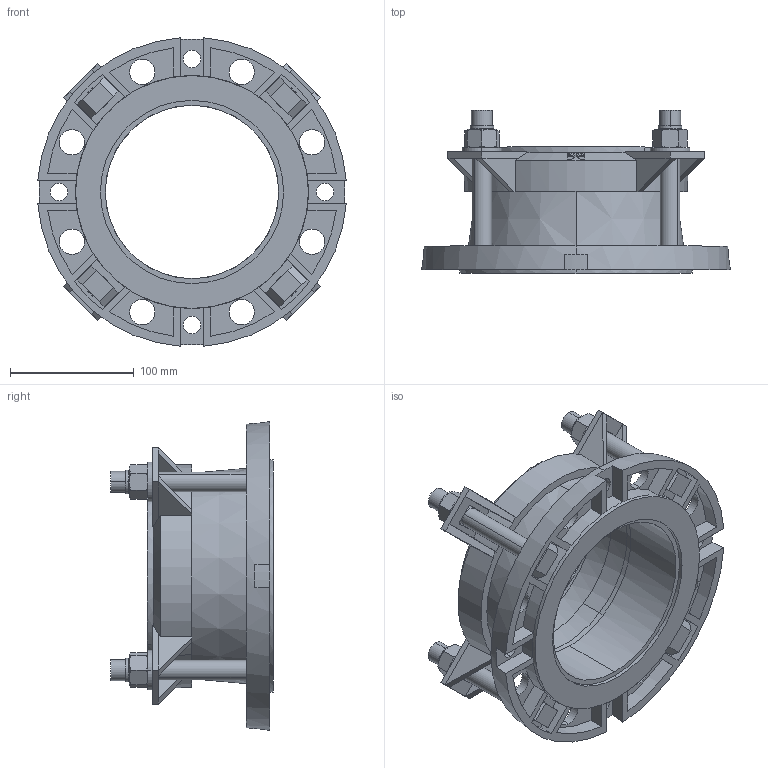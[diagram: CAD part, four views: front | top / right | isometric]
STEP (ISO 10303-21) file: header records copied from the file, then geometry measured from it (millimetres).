
FILE_DESCRIPTION (( 'STEP AP203' ), '1' );
FILE_NAME ('O_623_10_DN125-140mm_X1XXXXX_REV01.step', '2020-04-17T08:49:25', ( '' ), ( '' ), 'SwSTEP 2.0', 'SolidWorks 2019', '' );
FILE_SCHEMA (( 'CONFIG_CONTROL_DESIGN' ));
Length unit declared in the file: millimetre
Products named in the file (1): O_623_10_DN125-140mm_X1XXXXX_REV01
Bounding box: 249.28 x 131.5 x 249.28 mm (x, y, z)
Volume: 1284493.7 mm3; surface area: 248222.8 mm2
Topology: 1 solids, 1 shells, 482 faces, 1225 edges, 765 vertices
Faces by surface type: plane 257, cylinder 149, cone 74, bspline 2
Entity records: 15172 total; most frequent: CARTESIAN_POINT 3514, ORIENTED_EDGE 2450, DIRECTION 2374, EDGE_CURVE 1225, AXIS2_PLACEMENT_3D 899, VERTEX_POINT 765, VECTOR 576, LINE 576
